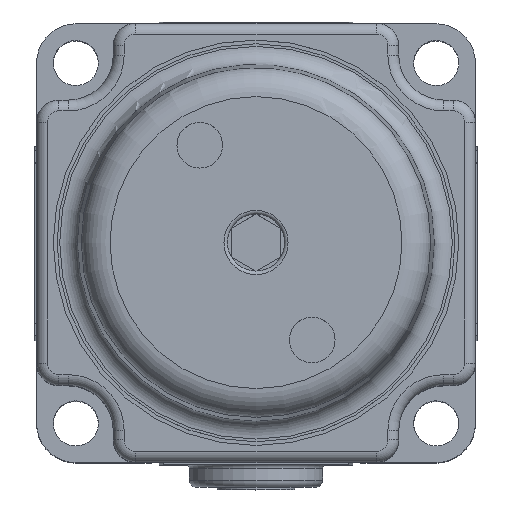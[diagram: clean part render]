
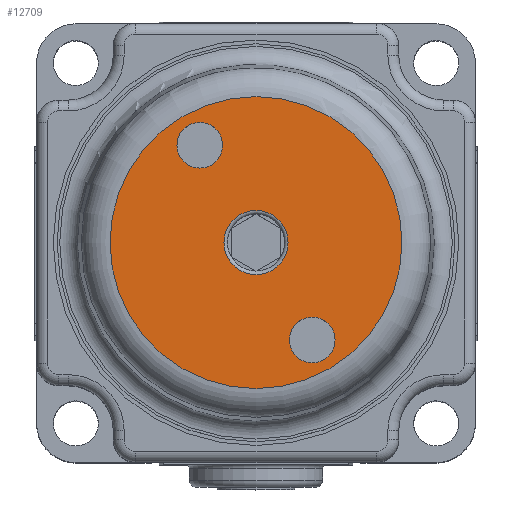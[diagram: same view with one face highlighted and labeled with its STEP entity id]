
A CAD part, top view. The second image highlights one B-rep face of the part: STEP entity #12709.
In plain terms, the highlighted planar face has unit normal (0, 0, 1).
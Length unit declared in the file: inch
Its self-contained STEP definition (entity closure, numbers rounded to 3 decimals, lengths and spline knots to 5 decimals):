
#357=FACE_BOUND('',#1654,.T.);
#358=FACE_BOUND('',#1655,.T.);
#359=FACE_BOUND('',#1656,.T.);
#495=PLANE('',#13483);
#922=FACE_OUTER_BOUND('',#1653,.T.);
#1653=EDGE_LOOP('',(#8601,#8602));
#1654=EDGE_LOOP('',(#8603,#8604));
#1655=EDGE_LOOP('',(#8605,#8606));
#1656=EDGE_LOOP('',(#8607,#8608));
#2373=CIRCLE('',#13470,0.089);
#2378=CIRCLE('',#13475,0.089);
#2385=CIRCLE('',#13484,0.4051);
#2386=CIRCLE('',#13485,0.4051);
#2387=CIRCLE('',#13486,0.0635);
#2388=CIRCLE('',#13487,0.0635);
#2389=CIRCLE('',#13488,0.0635);
#2390=CIRCLE('',#13489,0.0635);
#5052=VERTEX_POINT('',#21474);
#5053=VERTEX_POINT('',#21475);
#5063=VERTEX_POINT('',#21500);
#5064=VERTEX_POINT('',#21501);
#5065=VERTEX_POINT('',#21504);
#5066=VERTEX_POINT('',#21505);
#5067=VERTEX_POINT('',#21508);
#5068=VERTEX_POINT('',#21509);
#6391=EDGE_CURVE('',#5052,#5053,#2373,.T.);
#6396=EDGE_CURVE('',#5053,#5052,#2378,.T.);
#6404=EDGE_CURVE('',#5063,#5064,#2385,.T.);
#6405=EDGE_CURVE('',#5064,#5063,#2386,.T.);
#6406=EDGE_CURVE('',#5065,#5066,#2387,.T.);
#6407=EDGE_CURVE('',#5066,#5065,#2388,.T.);
#6408=EDGE_CURVE('',#5067,#5068,#2389,.T.);
#6409=EDGE_CURVE('',#5068,#5067,#2390,.T.);
#8601=ORIENTED_EDGE('',*,*,#6404,.T.);
#8602=ORIENTED_EDGE('',*,*,#6405,.T.);
#8603=ORIENTED_EDGE('',*,*,#6406,.T.);
#8604=ORIENTED_EDGE('',*,*,#6407,.T.);
#8605=ORIENTED_EDGE('',*,*,#6408,.T.);
#8606=ORIENTED_EDGE('',*,*,#6409,.T.);
#8607=ORIENTED_EDGE('',*,*,#6391,.F.);
#8608=ORIENTED_EDGE('',*,*,#6396,.F.);
#12709=ADVANCED_FACE('',(#922,#357,#358,#359),#495,.T.);
#13470=AXIS2_PLACEMENT_3D('',#21476,#15297,#15298);
#13475=AXIS2_PLACEMENT_3D('',#21484,#15307,#15308);
#13483=AXIS2_PLACEMENT_3D('',#21499,#15324,#15325);
#13484=AXIS2_PLACEMENT_3D('',#21502,#15326,#15327);
#13485=AXIS2_PLACEMENT_3D('',#21503,#15328,#15329);
#13486=AXIS2_PLACEMENT_3D('',#21506,#15330,#15331);
#13487=AXIS2_PLACEMENT_3D('',#21507,#15332,#15333);
#13488=AXIS2_PLACEMENT_3D('',#21510,#15334,#15335);
#13489=AXIS2_PLACEMENT_3D('',#21511,#15336,#15337);
#15297=DIRECTION('center_axis',(0.,0.,1.));
#15298=DIRECTION('ref_axis',(0.5,-0.866,0.));
#15307=DIRECTION('center_axis',(0.,0.,1.));
#15308=DIRECTION('ref_axis',(0.5,-0.866,0.));
#15324=DIRECTION('center_axis',(0.,0.,1.));
#15325=DIRECTION('ref_axis',(1.,0.,0.));
#15326=DIRECTION('center_axis',(0.,0.,1.));
#15327=DIRECTION('ref_axis',(-0.5,0.866,0.));
#15328=DIRECTION('center_axis',(0.,0.,1.));
#15329=DIRECTION('ref_axis',(-0.5,0.866,0.));
#15330=DIRECTION('center_axis',(0.,0.,-1.));
#15331=DIRECTION('ref_axis',(0.414,0.91,0.));
#15332=DIRECTION('center_axis',(0.,0.,-1.));
#15333=DIRECTION('ref_axis',(0.414,0.91,0.));
#15334=DIRECTION('center_axis',(0.,0.,-1.));
#15335=DIRECTION('ref_axis',(0.414,0.91,0.));
#15336=DIRECTION('center_axis',(0.,0.,-1.));
#15337=DIRECTION('ref_axis',(0.414,0.91,0.));
#21474=CARTESIAN_POINT('',(-0.28723,0.07538,0.9997));
#21475=CARTESIAN_POINT('',(-0.27531,0.03088,0.9997));
#21476=CARTESIAN_POINT('Origin',(-0.36431,0.03088,
0.9997));
#21484=CARTESIAN_POINT('Origin',(-0.36431,0.03088,
0.9997));
#21499=CARTESIAN_POINT('Origin',(-0.71548,-0.17187,0.9997));
#21500=CARTESIAN_POINT('',(-0.01348,0.23343,0.9997));
#21501=CARTESIAN_POINT('',(-0.76941,0.03088,0.9997));
#21502=CARTESIAN_POINT('Origin',(-0.36431,0.03088,
0.9997));
#21503=CARTESIAN_POINT('Origin',(-0.36431,0.03088,
0.9997));
#21504=CARTESIAN_POINT('',(-0.46532,0.33283,0.9997));
#21505=CARTESIAN_POINT('',(-0.5753,0.26933,0.9997));
#21506=CARTESIAN_POINT('Origin',(-0.52031,0.30108,0.9997));
#21507=CARTESIAN_POINT('Origin',(-0.52031,0.30108,0.9997));
#21508=CARTESIAN_POINT('',(-0.15332,-0.20757,0.9997));
#21509=CARTESIAN_POINT('',(-0.2633,-0.27107,0.9997));
#21510=CARTESIAN_POINT('Origin',(-0.20831,-0.23932,
0.9997));
#21511=CARTESIAN_POINT('Origin',(-0.20831,-0.23932,
0.9997));
